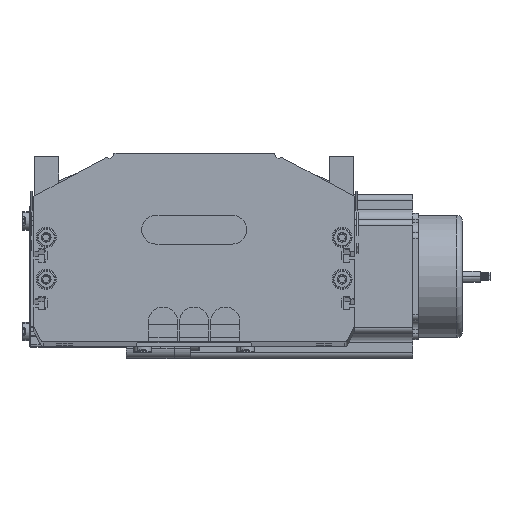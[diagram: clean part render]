
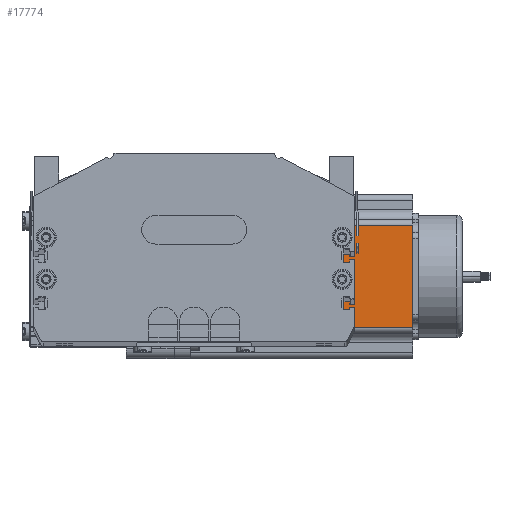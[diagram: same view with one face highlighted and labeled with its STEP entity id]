
A CAD part, top view. The second image highlights one B-rep face of the part: STEP entity #17774.
In plain terms, the highlighted planar face has unit normal (0, 0, 1) as drawn and (0, -1, 0) by its records, which use the part's own axes.
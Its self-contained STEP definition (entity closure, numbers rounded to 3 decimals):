
#16792 = VERTEX_POINT ( 'NONE', #61713 ) ;
#17219 = VERTEX_POINT ( 'NONE', #68449 ) ;
#17324 = ORIENTED_EDGE ( 'NONE', *, *, #17820, .T. ) ;
#17326 = EDGE_CURVE ( 'NONE', #17499, #17219, #68698, .T. ) ;
#17374 = EDGE_LOOP ( 'NONE', ( #17757, #17324, #17776, #17409 ) ) ;
#17409 = ORIENTED_EDGE ( 'NONE', *, *, #17667, .T. ) ;
#17499 = VERTEX_POINT ( 'NONE', #73336 ) ;
#17563 = EDGE_CURVE ( 'NONE', #16792, #17765, #73807, .T. ) ;
#17667 = EDGE_CURVE ( 'NONE', #16792, #17499, #77227, .T. ) ;
#17757 = ORIENTED_EDGE ( 'NONE', *, *, #17326, .T. ) ;
#17765 = VERTEX_POINT ( 'NONE', #61292 ) ;
#17774 = ADVANCED_FACE ( 'NONE', ( #61194 ), #61273, .F. ) ;
#17776 = ORIENTED_EDGE ( 'NONE', *, *, #17563, .F. ) ;
#17820 = EDGE_CURVE ( 'NONE', #17219, #17765, #61189, .T. ) ;
#61186 = DIRECTION ( 'NONE',  ( 0., 0., 1. ) ) ;
#61187 = VECTOR ( 'NONE', #61186, 1000. ) ;
#61188 = CARTESIAN_POINT ( 'NONE',  ( 69.74, 0., 116.5 ) ) ;
#61189 = LINE ( 'NONE', #61188, #61187 ) ;
#61194 = FACE_OUTER_BOUND ( 'NONE', #17374, .T. ) ;
#61217 = DIRECTION ( 'NONE',  ( 0., 0., 1. ) ) ;
#61218 = DIRECTION ( 'NONE',  ( 0., 1., 0. ) ) ;
#61219 = CARTESIAN_POINT ( 'NONE',  ( 0., 0., 116.5 ) ) ;
#61273 = PLANE ( 'NONE',  #61306 ) ;
#61292 = CARTESIAN_POINT ( 'NONE',  ( 69.74, 0., 116.5 ) ) ;
#61306 = AXIS2_PLACEMENT_3D ( 'NONE', #61219, #61218, #61217 ) ;
#61713 = CARTESIAN_POINT ( 'NONE',  ( 16.16, 0., 116.5 ) ) ;
#68449 = CARTESIAN_POINT ( 'NONE',  ( 69.74, 0., 0. ) ) ;
#68697 = CARTESIAN_POINT ( 'NONE',  ( 0., 0., 0. ) ) ;
#68698 = LINE ( 'NONE', #68697, #68737 ) ;
#68736 = DIRECTION ( 'NONE',  ( 1., 0., 0. ) ) ;
#68737 = VECTOR ( 'NONE', #68736, 1000. ) ;
#73336 = CARTESIAN_POINT ( 'NONE',  ( 16.16, 0., 0. ) ) ;
#73727 = DIRECTION ( 'NONE',  ( 1., 0., 0. ) ) ;
#73729 = VECTOR ( 'NONE', #73727, 1000. ) ;
#73805 = CARTESIAN_POINT ( 'NONE',  ( 0., 0., 116.5 ) ) ;
#73807 = LINE ( 'NONE', #73805, #73729 ) ;
#77129 = DIRECTION ( 'NONE',  ( 0., 0., -1. ) ) ;
#77131 = VECTOR ( 'NONE', #77129, 1000. ) ;
#77225 = CARTESIAN_POINT ( 'NONE',  ( 16.16, 0., 116.5 ) ) ;
#77227 = LINE ( 'NONE', #77225, #77131 ) ;
